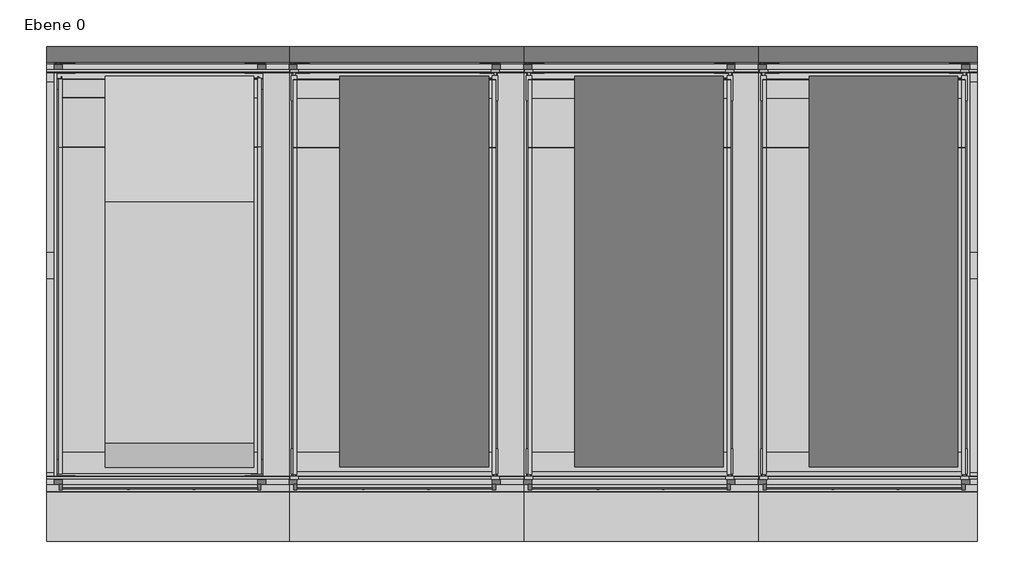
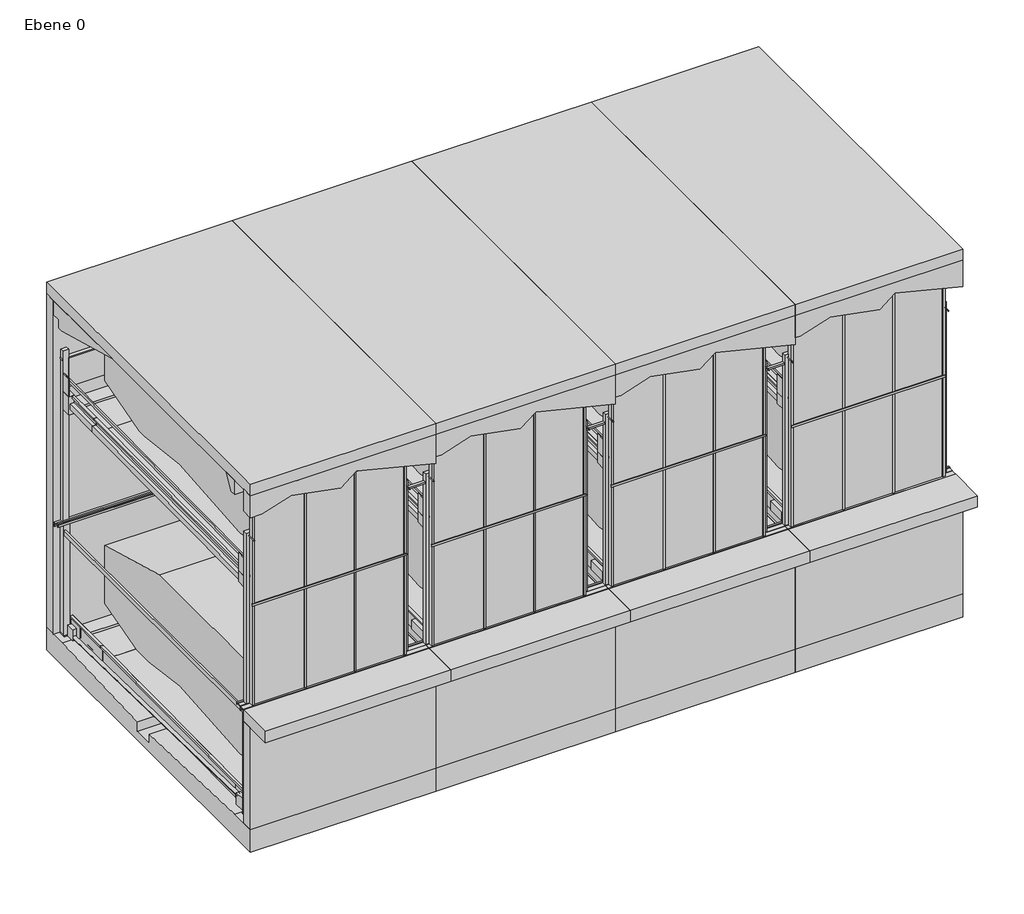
# One storey: 4 proxies.
"""IFC4 building model written with IfcOpenShell, lengths in millimetres."""

from ifc_helpers import new_model, si_unit, origin, place, context, project, spatial, transform, mapped, element, save
from components import generic_models_7aee6f10, generic_models_72f7ff9a, generic_models_711d1f75, generic_models_decd68fa, generic_models_e46402e7

model = new_model("IFC4")

# Units and contexts
model_context = context("Model", 3, world=origin())
ifc_project = project(units=[si_unit("LENGTHUNIT", "METRE", prefix="MILLI")], contexts=[model_context])

# Site, building, storey
site = spatial("IfcSite", under=ifc_project)
building = spatial("IfcBuilding", under=site)
storey = spatial("IfcBuildingStorey", under=building, Name="Ebene 0", Elevation=0.0)

# Proxies
placement = place(None, origin())
generic_models_shape = generic_models_7aee6f10(model_context)
element("IfcBuildingElementProxy", 1, Name="TrendVario_6300 : TrendVario_6300", ObjectType="TrendVario_6300 : TrendVario_6300", at=placement, inside=storey, context=model_context, shape_type="MappedRepresentation", body=[
    mapped(generic_models_shape, transform((-7096.3891029, -2811.2238064, 0.0), x_axis=(1.0, 0.0, 0.0), y_axis=(0.0, 1.0, 0.0), z_axis=(0.0, 0.0, 1.0))),
])
generic_models_2_shape = generic_models_72f7ff9a(model_context)
generic_models_3_shape = generic_models_711d1f75(model_context)
element("IfcBuildingElementProxy", 2, Name="TrendVario_6300 : TrendVario_6300", ObjectType="TrendVario_6300 : TrendVario_6300", at=placement, inside=storey, context=model_context, shape_type="MappedRepresentation", body=[
    mapped(generic_models_2_shape, transform((-4097.3891029, -2811.2238064, 0.0), x_axis=(1.0, 0.0, 0.0), y_axis=(0.0, 1.0, 0.0), z_axis=(0.0, 0.0, 1.0))),
    mapped(generic_models_3_shape, transform((-4097.3891029, -2811.2238064, 0.0), x_axis=(1.0, 0.0, 0.0), y_axis=(0.0, 1.0, 0.0), z_axis=(0.0, 0.0, 1.0))),
])
element("IfcBuildingElementProxy", 3, Name="TrendVario_6300 : TrendVario_6300", ObjectType="TrendVario_6300 : TrendVario_6300", at=placement, inside=storey, context=model_context, shape_type="MappedRepresentation", body=[
    mapped(generic_models_2_shape, transform((-1097.3891029, -2811.2238064, 0.0), x_axis=(1.0, 0.0, 0.0), y_axis=(0.0, 1.0, 0.0), z_axis=(0.0, 0.0, 1.0))),
    mapped(generic_models_3_shape, transform((-1097.3891029, -2811.2238064, 0.0), x_axis=(1.0, 0.0, 0.0), y_axis=(0.0, 1.0, 0.0), z_axis=(0.0, 0.0, 1.0))),
])
generic_models_4_shape = generic_models_decd68fa(model_context)
generic_models_5_shape = generic_models_e46402e7(model_context)
element("IfcBuildingElementProxy", 4, Name="TrendVario_6300 : TrendVario_6300", ObjectType="TrendVario_6300 : TrendVario_6300", at=placement, inside=storey, context=model_context, shape_type="MappedRepresentation", body=[
    mapped(generic_models_4_shape, transform((1902.6108971, -2811.2238064, 0.0), x_axis=(1.0, 0.0, 0.0), y_axis=(0.0, 1.0, 0.0), z_axis=(0.0, 0.0, 1.0))),
    mapped(generic_models_5_shape, transform((1902.6108971, -2811.2238064, 0.0), x_axis=(1.0, 0.0, 0.0), y_axis=(0.0, 1.0, 0.0), z_axis=(0.0, 0.0, 1.0))),
])

save(model, "model.ifc")
